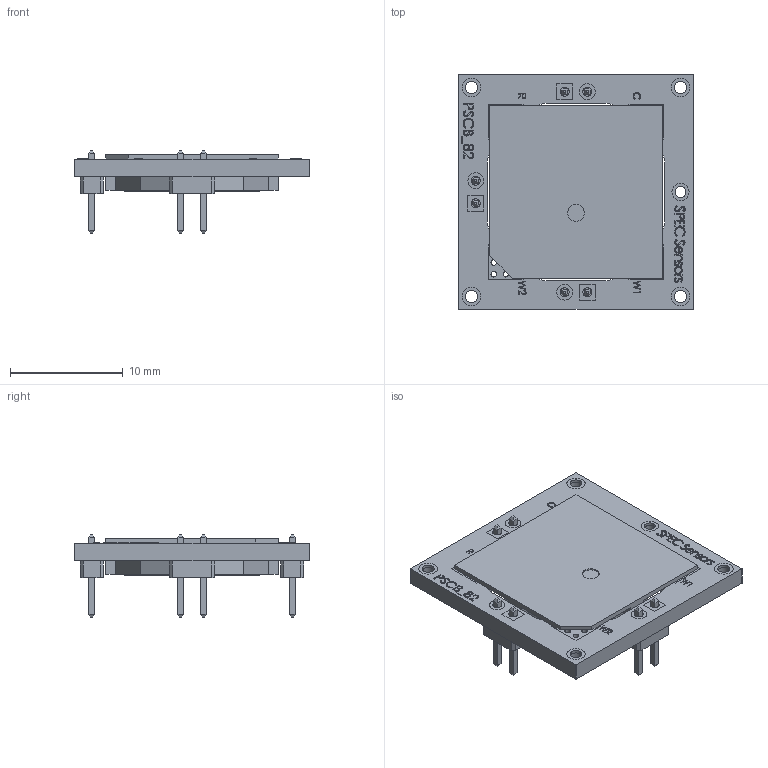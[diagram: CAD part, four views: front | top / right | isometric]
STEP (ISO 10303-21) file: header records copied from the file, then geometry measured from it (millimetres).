
FILE_DESCRIPTION (( 'STEP AP214' ), '1' );
FILE_NAME ('110-406 STEP.STEP', '2023-06-20T22:02:21', ( '' ), ( '' ), 'SwSTEP 2.0', 'SolidWorks 2017', '' );
FILE_SCHEMA (( 'AUTOMOTIVE_DESIGN' ));
Length unit declared in the file: millimetre
Products named in the file (6): 981-001; pinconnector; 110-406 STEP; 100-402 STEP; Zebra Barcode
Assembly tree (7 placements, depth 3):
  110-406 STEP
    100-402 STEP
    Zebra Barcode
    981-001
      981-001
      pinconnector  x3
Bounding box: 20.83 x 20.83 x 7.3 mm (x, y, z)
Volume: 880.3 mm3; surface area: 2001.3 mm2
Topology: 51 solids, 51 shells, 769 faces, 1942 edges, 1292 vertices
Faces by surface type: plane 433, bspline 191, cylinder 145
Full cylindrical faces by diameter (mm): 0.35 x1, 0.5 x64, 0.787 x12, 0.965 x2, 1.067 x8, 1.397 x6, 1.5 x1, 1.524 x2, 1.651 x8, 12 x1
Entity records: 34355 total; most frequent: CARTESIAN_POINT 14016, ORIENTED_EDGE 3274, DIRECTION 2571, EDGE_CURVE 1637, VERTEX_POINT 1156, EDGE_LOOP 1007, LINE 965, VECTOR 965
